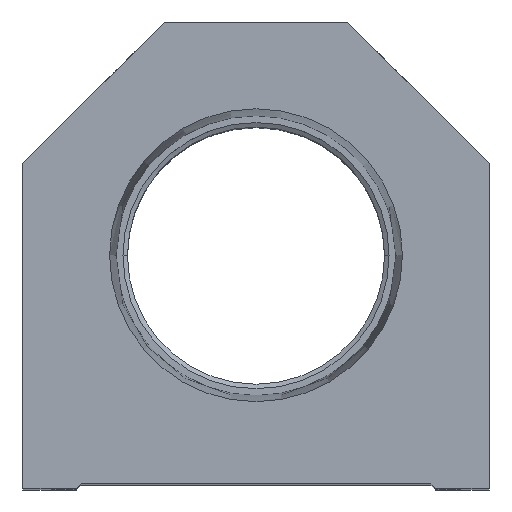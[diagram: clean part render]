
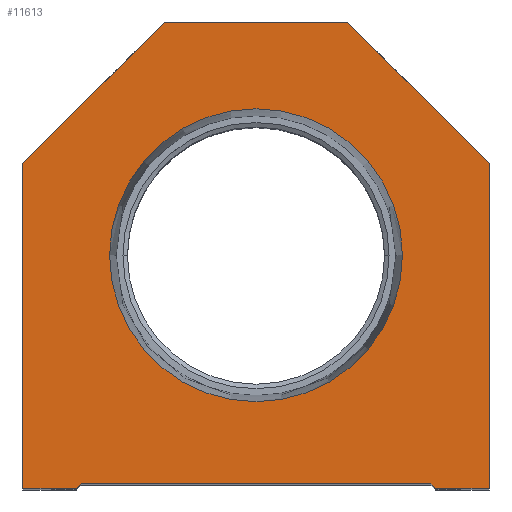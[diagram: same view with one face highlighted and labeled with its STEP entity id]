
A CAD part, top view. The second image highlights one B-rep face of the part: STEP entity #11613.
In plain terms, the highlighted planar face has unit normal (0, 0, 1).
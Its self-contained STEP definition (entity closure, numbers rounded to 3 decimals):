
#181 = CARTESIAN_POINT ( 'NONE',  ( 9.775, 9.775, 0. ) ) ;
#259 = CARTESIAN_POINT ( 'NONE',  ( -19.05, 0., 0. ) ) ;
#386 = DIRECTION ( 'NONE',  ( -0.707, 0.707, 0. ) ) ;
#402 = DIRECTION ( 'NONE',  ( 1., 0., 0. ) ) ;
#434 = CARTESIAN_POINT ( 'NONE',  ( -19.55, 0., 0. ) ) ;
#443 = EDGE_CURVE ( 'NONE', #2166, #11295, #11172, .T. ) ;
#470 = DIRECTION ( 'NONE',  ( 1., 0., 0. ) ) ;
#501 = VERTEX_POINT ( 'NONE', #434 ) ;
#622 = CARTESIAN_POINT ( 'NONE',  ( -10., 50.8, 0. ) ) ;
#810 = VECTOR ( 'NONE', #7536, 1000. ) ;
#942 = LINE ( 'NONE', #15863, #3244 ) ;
#1171 = AXIS2_PLACEMENT_3D ( 'NONE', #10764, #4304, #3047 ) ;
#1274 = ORIENTED_EDGE ( 'NONE', *, *, #10952, .T. ) ;
#1611 = ORIENTED_EDGE ( 'NONE', *, *, #4395, .T. ) ;
#1753 = VERTEX_POINT ( 'NONE', #10987 ) ;
#1955 = EDGE_CURVE ( 'NONE', #10993, #501, #14047, .T. ) ;
#2166 = VERTEX_POINT ( 'NONE', #10930 ) ;
#2296 = EDGE_CURVE ( 'NONE', #5595, #10314, #10187, .T. ) ;
#2665 = DIRECTION ( 'NONE',  ( 1., 0., 0. ) ) ;
#2737 = ORIENTED_EDGE ( 'NONE', *, *, #5987, .T. ) ;
#2753 = ORIENTED_EDGE ( 'NONE', *, *, #2296, .T. ) ;
#2857 = ORIENTED_EDGE ( 'NONE', *, *, #13793, .T. ) ;
#2872 = LINE ( 'NONE', #12925, #14858 ) ;
#2998 = VECTOR ( 'NONE', #470, 1000. ) ;
#3047 = DIRECTION ( 'NONE',  ( 1., 0., 0. ) ) ;
#3244 = VECTOR ( 'NONE', #5945, 1000. ) ;
#3444 = CARTESIAN_POINT ( 'NONE',  ( -25.4, 0., 0. ) ) ;
#3462 = DIRECTION ( 'NONE',  ( 0., 1., 0. ) ) ;
#3749 = EDGE_LOOP ( 'NONE', ( #7625, #12988 ) ) ;
#4152 = DIRECTION ( 'NONE',  ( 0., 0., 1. ) ) ;
#4299 = LINE ( 'NONE', #11597, #2998 ) ;
#4304 = DIRECTION ( 'NONE',  ( 0., 0., 1. ) ) ;
#4395 = EDGE_CURVE ( 'NONE', #10314, #4730, #2872, .T. ) ;
#4505 = EDGE_CURVE ( 'NONE', #501, #7028, #15555, .T. ) ;
#4543 = ORIENTED_EDGE ( 'NONE', *, *, #13585, .T. ) ;
#4730 = VERTEX_POINT ( 'NONE', #16016 ) ;
#5437 = VECTOR ( 'NONE', #3462, 1000. ) ;
#5595 = VERTEX_POINT ( 'NONE', #13374 ) ;
#5627 = FACE_OUTER_BOUND ( 'NONE', #7064, .T. ) ;
#5857 = CARTESIAN_POINT ( 'NONE',  ( -25.4, 0., 0. ) ) ;
#5945 = DIRECTION ( 'NONE',  ( 1., 0., 0. ) ) ;
#5987 = EDGE_CURVE ( 'NONE', #4730, #10771, #15957, .T. ) ;
#6240 = CIRCLE ( 'NONE', #1171, 15.947 ) ;
#6438 = AXIS2_PLACEMENT_3D ( 'NONE', #15457, #12730, #14052 ) ;
#7028 = VERTEX_POINT ( 'NONE', #9984 ) ;
#7064 = EDGE_LOOP ( 'NONE', ( #7071, #9584, #13703, #4543, #2857, #2753, #1611, #2737, #15838, #1274 ) ) ;
#7071 = ORIENTED_EDGE ( 'NONE', *, *, #1955, .T. ) ;
#7296 = CARTESIAN_POINT ( 'NONE',  ( 25.4, 0., 0. ) ) ;
#7536 = DIRECTION ( 'NONE',  ( 0., -1., 0. ) ) ;
#7625 = ORIENTED_EDGE ( 'NONE', *, *, #443, .F. ) ;
#7875 = LINE ( 'NONE', #9032, #10936 ) ;
#7928 = AXIS2_PLACEMENT_3D ( 'NONE', #15650, #4152, #402 ) ;
#8743 = CARTESIAN_POINT ( 'NONE',  ( -15.947, 25.4, 0. ) ) ;
#9032 = CARTESIAN_POINT ( 'NONE',  ( -25.4, 35.4, 0. ) ) ;
#9135 = PLANE ( 'NONE',  #7928 ) ;
#9186 = EDGE_CURVE ( 'NONE', #7028, #13618, #942, .T. ) ;
#9584 = ORIENTED_EDGE ( 'NONE', *, *, #4505, .T. ) ;
#9984 = CARTESIAN_POINT ( 'NONE',  ( -19.05, 0.5, 0. ) ) ;
#10172 = VECTOR ( 'NONE', #2665, 1000. ) ;
#10187 = LINE ( 'NONE', #7296, #5437 ) ;
#10314 = VERTEX_POINT ( 'NONE', #15456 ) ;
#10588 = CARTESIAN_POINT ( 'NONE',  ( -25.4, 35.4, 0. ) ) ;
#10592 = CARTESIAN_POINT ( 'NONE',  ( -9.775, 9.775, 0. ) ) ;
#10606 = FACE_BOUND ( 'NONE', #3749, .T. ) ;
#10764 = CARTESIAN_POINT ( 'NONE',  ( 0., 25.4, 0. ) ) ;
#10771 = VERTEX_POINT ( 'NONE', #622 ) ;
#10824 = EDGE_CURVE ( 'NONE', #11295, #2166, #6240, .T. ) ;
#10930 = CARTESIAN_POINT ( 'NONE',  ( 15.947, 25.4, 0. ) ) ;
#10936 = VECTOR ( 'NONE', #12930, 1000. ) ;
#10952 = EDGE_CURVE ( 'NONE', #11908, #10993, #15959, .T. ) ;
#10987 = CARTESIAN_POINT ( 'NONE',  ( 19.55, 0., 0. ) ) ;
#10993 = VERTEX_POINT ( 'NONE', #3444 ) ;
#11015 = CARTESIAN_POINT ( 'NONE',  ( 19.05, 0.5, 0. ) ) ;
#11165 = CARTESIAN_POINT ( 'NONE',  ( 10., 50.8, 0. ) ) ;
#11172 = CIRCLE ( 'NONE', #6438, 15.947 ) ;
#11295 = VERTEX_POINT ( 'NONE', #8743 ) ;
#11564 = LINE ( 'NONE', #181, #14144 ) ;
#11597 = CARTESIAN_POINT ( 'NONE',  ( 19.05, 0., 0. ) ) ;
#11613 = ADVANCED_FACE ( 'NONE', ( #10606, #5627 ), #9135, .T. ) ;
#11908 = VERTEX_POINT ( 'NONE', #10588 ) ;
#12730 = DIRECTION ( 'NONE',  ( 0., 0., 1. ) ) ;
#12925 = CARTESIAN_POINT ( 'NONE',  ( 25.4, 35.4, 0. ) ) ;
#12930 = DIRECTION ( 'NONE',  ( -0.707, -0.707, 0. ) ) ;
#12988 = ORIENTED_EDGE ( 'NONE', *, *, #10824, .F. ) ;
#13097 = DIRECTION ( 'NONE',  ( 0.707, 0.707, 0. ) ) ;
#13374 = CARTESIAN_POINT ( 'NONE',  ( 25.4, 0., 0. ) ) ;
#13585 = EDGE_CURVE ( 'NONE', #13618, #1753, #11564, .T. ) ;
#13618 = VERTEX_POINT ( 'NONE', #11015 ) ;
#13703 = ORIENTED_EDGE ( 'NONE', *, *, #9186, .T. ) ;
#13765 = EDGE_CURVE ( 'NONE', #10771, #11908, #7875, .T. ) ;
#13793 = EDGE_CURVE ( 'NONE', #1753, #5595, #4299, .T. ) ;
#14047 = LINE ( 'NONE', #259, #10172 ) ;
#14052 = DIRECTION ( 'NONE',  ( 1., 0., 0. ) ) ;
#14144 = VECTOR ( 'NONE', #15371, 1000. ) ;
#14379 = VECTOR ( 'NONE', #14828, 1000. ) ;
#14828 = DIRECTION ( 'NONE',  ( -1., 0., 0. ) ) ;
#14858 = VECTOR ( 'NONE', #386, 1000. ) ;
#15371 = DIRECTION ( 'NONE',  ( 0.707, -0.707, 0. ) ) ;
#15456 = CARTESIAN_POINT ( 'NONE',  ( 25.4, 35.4, 0. ) ) ;
#15457 = CARTESIAN_POINT ( 'NONE',  ( 0., 25.4, 0. ) ) ;
#15555 = LINE ( 'NONE', #10592, #15872 ) ;
#15650 = CARTESIAN_POINT ( 'NONE',  ( 0., 0., 0. ) ) ;
#15838 = ORIENTED_EDGE ( 'NONE', *, *, #13765, .T. ) ;
#15863 = CARTESIAN_POINT ( 'NONE',  ( -19.05, 0.5, 0. ) ) ;
#15872 = VECTOR ( 'NONE', #13097, 1000. ) ;
#15957 = LINE ( 'NONE', #11165, #14379 ) ;
#15959 = LINE ( 'NONE', #5857, #810 ) ;
#16016 = CARTESIAN_POINT ( 'NONE',  ( 10., 50.8, 0. ) ) ;
